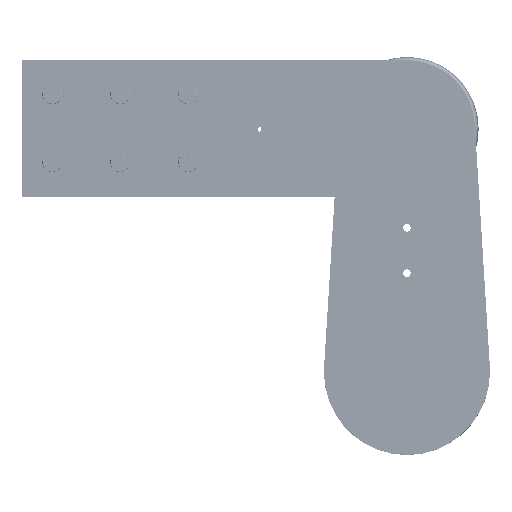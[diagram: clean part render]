
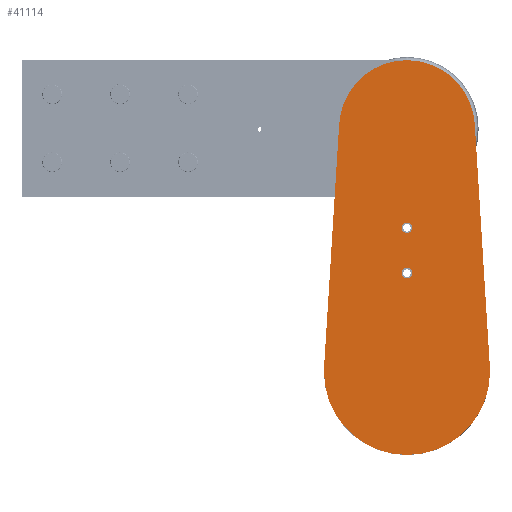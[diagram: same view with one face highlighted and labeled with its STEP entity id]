
A CAD part, top view. The second image highlights one B-rep face of the part: STEP entity #41114.
In plain terms, the highlighted planar face has unit normal (0, 0, 1) as drawn and (0, 0, -1) by its records, which use the part's own axes.
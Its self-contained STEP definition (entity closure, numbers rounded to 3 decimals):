
#24833 = AXIS2_PLACEMENT_3D ( 'NONE', #50900, #50889, #50919 ) ;
#30960 = CIRCLE ( 'NONE', #30965, 3.5 ) ;
#30964 = CIRCLE ( 'NONE', #30971, 3.5 ) ;
#30965 = AXIS2_PLACEMENT_3D ( 'NONE', #55659, #55662, #55665 ) ;
#30971 = AXIS2_PLACEMENT_3D ( 'NONE', #55701, #55704, #55707 ) ;
#30987 = CIRCLE ( 'NONE', #30991, 55. ) ;
#30991 = AXIS2_PLACEMENT_3D ( 'NONE', #55838, #55841, #55844 ) ;
#30992 = CIRCLE ( 'NONE', #30997, 55. ) ;
#30997 = AXIS2_PLACEMENT_3D ( 'NONE', #55881, #55884, #55887 ) ;
#31010 = CIRCLE ( 'NONE', #31013, 45. ) ;
#31013 = AXIS2_PLACEMENT_3D ( 'NONE', #55950, #55952, #55954 ) ;
#31017 = VECTOR ( 'NONE', #55976, 1000. ) ;
#31021 = CIRCLE ( 'NONE', #31024, 55. ) ;
#31023 = VECTOR ( 'NONE', #56010, 1000. ) ;
#31024 = AXIS2_PLACEMENT_3D ( 'NONE', #56004, #56005, #56007 ) ;
#31026 = CIRCLE ( 'NONE', #31028, 3.5 ) ;
#31027 = CIRCLE ( 'NONE', #31030, 3.5 ) ;
#31028 = AXIS2_PLACEMENT_3D ( 'NONE', #56023, #56025, #56027 ) ;
#31030 = AXIS2_PLACEMENT_3D ( 'NONE', #56032, #56034, #56036 ) ;
#41114 = ADVANCED_FACE ( 'NONE', ( #50903, #50892, #50910 ), #50913, .F. ) ;
#45750 = CARTESIAN_POINT ( 'NONE',  ( 3.5, 95.5, 0. ) ) ;
#45752 = CARTESIAN_POINT ( 'NONE',  ( -3.5, 95.5, 0. ) ) ;
#45757 = CARTESIAN_POINT ( 'NONE',  ( 3.5, 65.5, 0. ) ) ;
#45759 = CARTESIAN_POINT ( 'NONE',  ( -3.5, 65.5, 0. ) ) ;
#45785 = CARTESIAN_POINT ( 'NONE',  ( 55., 0., 0. ) ) ;
#45787 = CARTESIAN_POINT ( 'NONE',  ( 54.894, 3.406, 0. ) ) ;
#45791 = CARTESIAN_POINT ( 'NONE',  ( -55., 0., 0. ) ) ;
#45792 = CARTESIAN_POINT ( 'NONE',  ( -44.914, 164.286, 0. ) ) ;
#45794 = CARTESIAN_POINT ( 'NONE',  ( 44.914, 164.286, 0. ) ) ;
#45796 = CARTESIAN_POINT ( 'NONE',  ( -54.894, 3.406, 0. ) ) ;
#47249 = EDGE_CURVE ( 'NONE', #58705, #58707, #30960, .T. ) ;
#47253 = EDGE_CURVE ( 'NONE', #58713, #58715, #30964, .T. ) ;
#47266 = EDGE_CURVE ( 'NONE', #58746, #58748, #30987, .T. ) ;
#47270 = EDGE_CURVE ( 'NONE', #58752, #58746, #30992, .T. ) ;
#47279 = EDGE_CURVE ( 'NONE', #58756, #58754, #31010, .T. ) ;
#47283 = EDGE_CURVE ( 'NONE', #58754, #58758, #55972, .T. ) ;
#47287 = EDGE_CURVE ( 'NONE', #58758, #58752, #31021, .T. ) ;
#47288 = EDGE_CURVE ( 'NONE', #58748, #58756, #55991, .T. ) ;
#47290 = EDGE_CURVE ( 'NONE', #58707, #58705, #31026, .T. ) ;
#47291 = EDGE_CURVE ( 'NONE', #58715, #58713, #31027, .T. ) ;
#50889 = DIRECTION ( 'NONE',  ( 0., 0., 1. ) ) ;
#50892 = FACE_BOUND ( 'NONE', #62293, .T. ) ;
#50900 = CARTESIAN_POINT ( 'NONE',  ( 0., 161.5, 0. ) ) ;
#50903 = FACE_BOUND ( 'NONE', #62287, .T. ) ;
#50910 = FACE_OUTER_BOUND ( 'NONE', #62292, .T. ) ;
#50913 = PLANE ( 'NONE',  #24833 ) ;
#50919 = DIRECTION ( 'NONE',  ( 1., 0., 0. ) ) ;
#55659 = CARTESIAN_POINT ( 'NONE',  ( 0., 95.5, 0. ) ) ;
#55662 = DIRECTION ( 'NONE',  ( 0., 0., -1. ) ) ;
#55665 = DIRECTION ( 'NONE',  ( 1., 0., 0. ) ) ;
#55701 = CARTESIAN_POINT ( 'NONE',  ( 0., 65.5, 0. ) ) ;
#55704 = DIRECTION ( 'NONE',  ( 0., 0., -1. ) ) ;
#55707 = DIRECTION ( 'NONE',  ( 1., 0., 0. ) ) ;
#55838 = CARTESIAN_POINT ( 'NONE',  ( 0., 0., 0. ) ) ;
#55841 = DIRECTION ( 'NONE',  ( 0., 0., 1. ) ) ;
#55844 = DIRECTION ( 'NONE',  ( 1., 0., 0. ) ) ;
#55881 = CARTESIAN_POINT ( 'NONE',  ( 0., 0., 0. ) ) ;
#55884 = DIRECTION ( 'NONE',  ( 0., 0., 1. ) ) ;
#55887 = DIRECTION ( 'NONE',  ( 1., 0., 0. ) ) ;
#55950 = CARTESIAN_POINT ( 'NONE',  ( 0., 161.5, 0. ) ) ;
#55952 = DIRECTION ( 'NONE',  ( 0., 0., 1. ) ) ;
#55954 = DIRECTION ( 'NONE',  ( 1., 0., 0. ) ) ;
#55972 = LINE ( 'NONE', #55974, #31017 ) ;
#55974 = CARTESIAN_POINT ( 'NONE',  ( -44.914, 164.286, 0. ) ) ;
#55976 = DIRECTION ( 'NONE',  ( -0.062, -0.998, 0. ) ) ;
#55991 = LINE ( 'NONE', #55994, #31023 ) ;
#55994 = CARTESIAN_POINT ( 'NONE',  ( 44.914, 164.286, 0. ) ) ;
#56004 = CARTESIAN_POINT ( 'NONE',  ( 0., 0., 0. ) ) ;
#56005 = DIRECTION ( 'NONE',  ( 0., 0., 1. ) ) ;
#56007 = DIRECTION ( 'NONE',  ( 1., 0., 0. ) ) ;
#56010 = DIRECTION ( 'NONE',  ( -0.062, 0.998, 0. ) ) ;
#56023 = CARTESIAN_POINT ( 'NONE',  ( 0., 95.5, 0. ) ) ;
#56025 = DIRECTION ( 'NONE',  ( 0., 0., -1. ) ) ;
#56027 = DIRECTION ( 'NONE',  ( 1., 0., 0. ) ) ;
#56032 = CARTESIAN_POINT ( 'NONE',  ( 0., 65.5, 0. ) ) ;
#56034 = DIRECTION ( 'NONE',  ( 0., 0., -1. ) ) ;
#56036 = DIRECTION ( 'NONE',  ( 1., 0., 0. ) ) ;
#58411 = ORIENTED_EDGE ( 'NONE', *, *, #47249, .F. ) ;
#58412 = ORIENTED_EDGE ( 'NONE', *, *, #47290, .F. ) ;
#58413 = ORIENTED_EDGE ( 'NONE', *, *, #47253, .F. ) ;
#58414 = ORIENTED_EDGE ( 'NONE', *, *, #47291, .F. ) ;
#58415 = ORIENTED_EDGE ( 'NONE', *, *, #47279, .F. ) ;
#58416 = ORIENTED_EDGE ( 'NONE', *, *, #47288, .F. ) ;
#58417 = ORIENTED_EDGE ( 'NONE', *, *, #47266, .F. ) ;
#58418 = ORIENTED_EDGE ( 'NONE', *, *, #47270, .F. ) ;
#58419 = ORIENTED_EDGE ( 'NONE', *, *, #47287, .F. ) ;
#58420 = ORIENTED_EDGE ( 'NONE', *, *, #47283, .F. ) ;
#58705 = VERTEX_POINT ( 'NONE', #45750 ) ;
#58707 = VERTEX_POINT ( 'NONE', #45752 ) ;
#58713 = VERTEX_POINT ( 'NONE', #45757 ) ;
#58715 = VERTEX_POINT ( 'NONE', #45759 ) ;
#58746 = VERTEX_POINT ( 'NONE', #45785 ) ;
#58748 = VERTEX_POINT ( 'NONE', #45787 ) ;
#58752 = VERTEX_POINT ( 'NONE', #45791 ) ;
#58754 = VERTEX_POINT ( 'NONE', #45792 ) ;
#58756 = VERTEX_POINT ( 'NONE', #45794 ) ;
#58758 = VERTEX_POINT ( 'NONE', #45796 ) ;
#62287 = EDGE_LOOP ( 'NONE', ( #58411, #58412 ) ) ;
#62292 = EDGE_LOOP ( 'NONE', ( #58415, #58416, #58417, #58418, #58419, #58420 ) ) ;
#62293 = EDGE_LOOP ( 'NONE', ( #58413, #58414 ) ) ;
